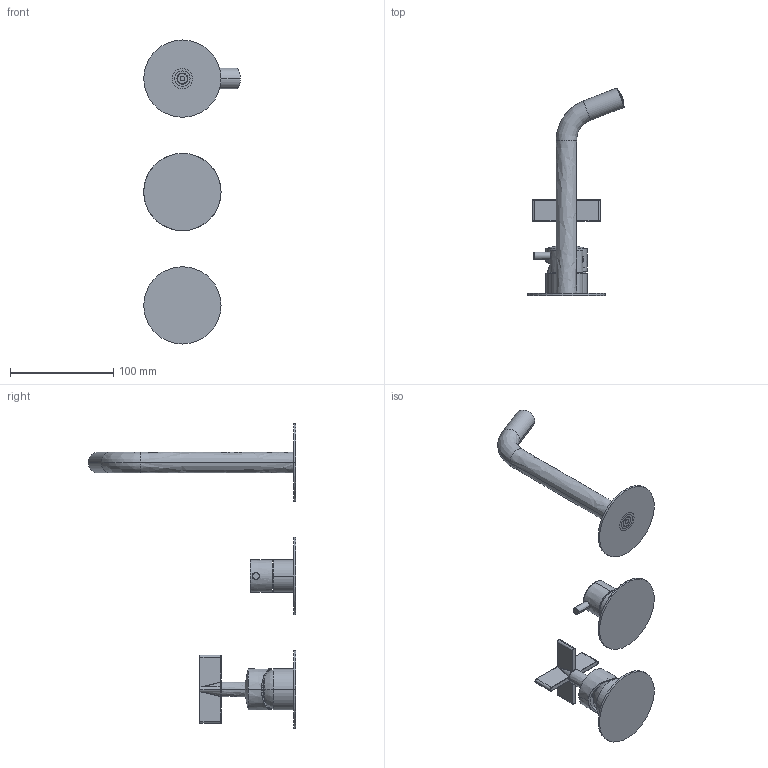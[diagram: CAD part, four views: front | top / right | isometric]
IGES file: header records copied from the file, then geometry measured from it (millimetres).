
Start section:  PTC IGES file: 39558V3.igs
Global section: file name: 39558V3.igs; native system: Creo Parametric by PTC Inc.; preprocessor: 2022014; author: carloff; organization: Unknown; date: 20241205.101452; units: millimetre
Bounding box: 93.65 x 201.34 x 295 mm (x, y, z)
Surface area: 89350.3 mm2 (no closed solid volume)
Topology: 0 solids, 0 shells, 2044 faces, 11810 edges, 11796 vertices
Faces by surface type: bspline 1557, revolution 484, extrusion 3
